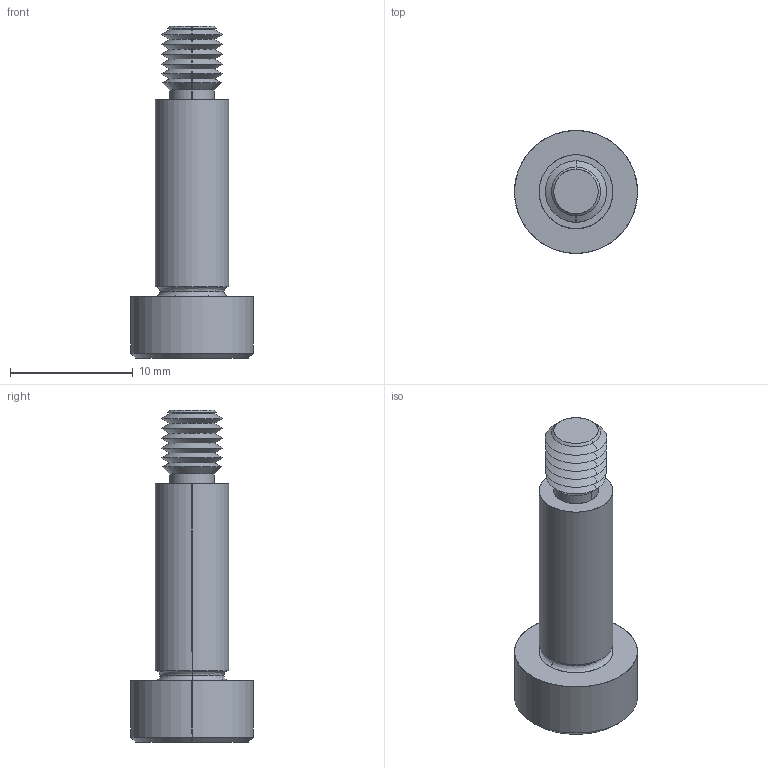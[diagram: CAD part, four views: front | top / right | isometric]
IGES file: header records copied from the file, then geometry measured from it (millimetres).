
Start section: SolidWorks IGES file using analytic representation for surfaces
Global section: file name: C:\Users\IanO\Documents\Temp Folder\GENERAL\SCREW REVISION\P0130_v2\P0130.T5_v2_20220106_IGES\P0130.060-016-T5.igs; native system: SolidWorks 2019; preprocessor: SolidWorks 2019; author: IanO; date: 220106.222347; units: millimetre
Bounding box: 10 x 10 x 27 mm (x, y, z)
Surface area: 789.2 mm2 (no closed solid volume)
Topology: 0 solids, 0 shells, 64 faces, 504 edges, 502 vertices
Faces by surface type: revolution 44, bspline 20
